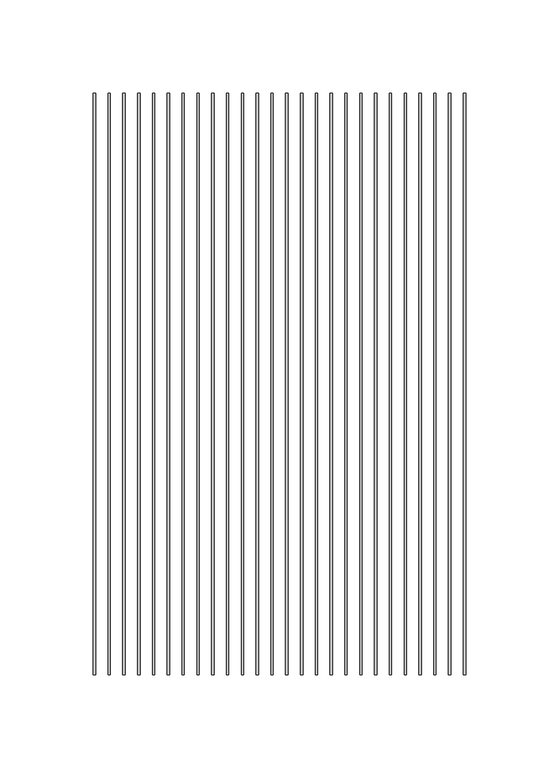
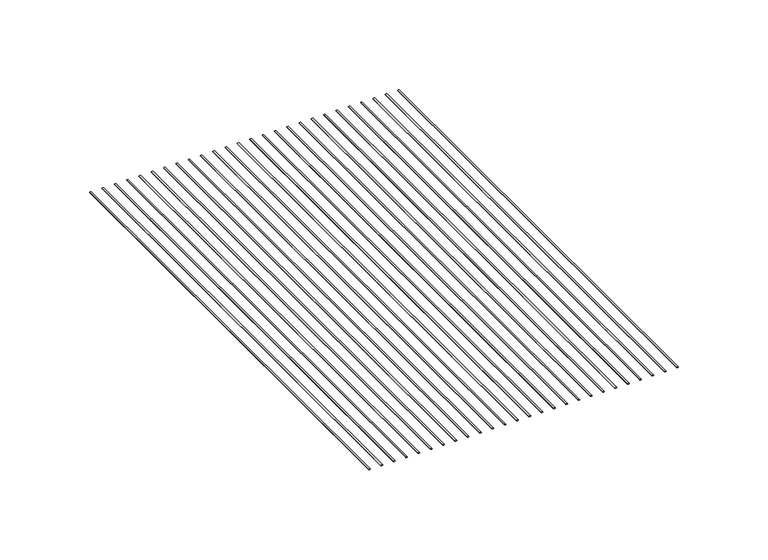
"""IFC4 building model written with IfcOpenShell, lengths in millimetres: proxy geometry, CRAi Generic Model Mesh Piece Face Based : CRAi Generic Model Mesh Piece Face Based."""

from ifc_helpers import new_model, si_unit, point, frame, origin, place, context, project, spatial, ellipse_curve, trimmed, source, transform, mapped, element, save
from ifc_brep_helpers import plane_surface, extruded_surface, advanced_brep


def generic_models_0795693d(model_context):
    return source(origin(), model_context, "Body", "AdvancedBrep", [
        advanced_brep(
        [(-196.6515625, -155.6875423, -2.5796875), (-195.4609375, -155.6875423, -2.5796875), (-196.6515625, 155.6875423, -2.5796875), (-195.4609375, 155.6875423, -2.5796875)],
        [
            (0, 1, ellipse_curve(frame((-196.05625, -155.6875423, -2.5796875), z_axis=(0.0, -1.0, 0.0), x_axis=(1.0, 0.0, 0.0)), 0.5953125, 0.1984375)),
            (1, 0, ellipse_curve(frame((-196.05625, -155.6875423, -2.5796875), z_axis=(0.0, -1.0, 0.0), x_axis=(1.0, 0.0, 0.0)), 0.5953125, 0.1984375)),
            (2, 3, ellipse_curve(frame((-196.05625, 155.6875423, -2.5796875), z_axis=(0.0, 1.0, 0.0), x_axis=(1.0, 0.0, 0.0)), 0.5953125, 0.1984375)),
            (3, 2, ellipse_curve(frame((-196.05625, 155.6875423, -2.5796875), z_axis=(0.0, 1.0, 0.0), x_axis=(1.0, 0.0, 0.0)), 0.5953125, 0.1984375)),
            (0, 2),
            (3, 1),
        ],
        [
            plane_surface(frame((-196.05625, -155.6875423, -2.5796875), z_axis=(0.0, -1.0, 0.0), x_axis=(0.0, 0.0, 1.0))),
            plane_surface(frame((-196.05625, 155.6875423, -2.5796875), z_axis=(0.0, 1.0, 0.0), x_axis=(0.0, 0.0, 1.0))),
            extruded_surface(trimmed(ellipse_curve(frame((-196.05625, 155.6875423, -2.5796875), z_axis=(0.0, -1.0, 0.0), x_axis=(1.0, 0.0, 0.0)), 0.5953125, 0.1984375), [point((-196.6515625, 155.6875423, -2.5796875))], [point((-195.4609375, 155.6875423, -2.5796875))], True, "CARTESIAN"), (0.0, -311.3750846, 0.0), 311.3750846),
            extruded_surface(trimmed(ellipse_curve(frame((-196.05625, 155.6875423, -2.5796875), z_axis=(0.0, -1.0, 0.0), x_axis=(1.0, 0.0, 0.0)), 0.5953125, 0.1984375), [point((-195.4609375, 155.6875423, -2.5796875))], [point((-196.6515625, 155.6875423, -2.5796875))], True, "CARTESIAN"), (0.0, -311.3750846, 0.0), 311.3750846),
        ],
        [
            (0, [[1, 2]]),
            (1, [[3, 4]]),
            (2, [[-1, 5, -4, 6]]),
            (3, [[-2, -6, -3, -5]]),
        ],
    ),
        advanced_brep(
        [(-188.7140625, -155.6875423, -2.5796875), (-187.5234375, -155.6875423, -2.5796875), (-188.7140625, 155.6875423, -2.5796875), (-187.5234375, 155.6875423, -2.5796875)],
        [
            (0, 1, ellipse_curve(frame((-188.11875, -155.6875423, -2.5796875), z_axis=(0.0, -1.0, 0.0), x_axis=(1.0, 0.0, 0.0)), 0.5953125, 0.1984375)),
            (1, 0, ellipse_curve(frame((-188.11875, -155.6875423, -2.5796875), z_axis=(0.0, -1.0, 0.0), x_axis=(1.0, 0.0, 0.0)), 0.5953125, 0.1984375)),
            (2, 3, ellipse_curve(frame((-188.11875, 155.6875423, -2.5796875), z_axis=(0.0, 1.0, 0.0), x_axis=(1.0, 0.0, 0.0)), 0.5953125, 0.1984375)),
            (3, 2, ellipse_curve(frame((-188.11875, 155.6875423, -2.5796875), z_axis=(0.0, 1.0, 0.0), x_axis=(1.0, 0.0, 0.0)), 0.5953125, 0.1984375)),
            (0, 2),
            (3, 1),
        ],
        [
            plane_surface(frame((-188.11875, -155.6875423, -2.5796875), z_axis=(0.0, -1.0, 0.0), x_axis=(0.0, 0.0, 1.0))),
            plane_surface(frame((-188.11875, 155.6875423, -2.5796875), z_axis=(0.0, 1.0, 0.0), x_axis=(0.0, 0.0, 1.0))),
            extruded_surface(trimmed(ellipse_curve(frame((-188.11875, 155.6875423, -2.5796875), z_axis=(0.0, -1.0, 0.0), x_axis=(1.0, 0.0, 0.0)), 0.5953125, 0.1984375), [point((-188.7140625, 155.6875423, -2.5796875))], [point((-187.5234375, 155.6875423, -2.5796875))], True, "CARTESIAN"), (0.0, -311.3750846, 0.0), 311.3750846),
            extruded_surface(trimmed(ellipse_curve(frame((-188.11875, 155.6875423, -2.5796875), z_axis=(0.0, -1.0, 0.0), x_axis=(1.0, 0.0, 0.0)), 0.5953125, 0.1984375), [point((-187.5234375, 155.6875423, -2.5796875))], [point((-188.7140625, 155.6875423, -2.5796875))], True, "CARTESIAN"), (0.0, -311.3750846, 0.0), 311.3750846),
        ],
        [
            (0, [[1, 2]]),
            (1, [[3, 4]]),
            (2, [[-1, 5, -4, 6]]),
            (3, [[-2, -6, -3, -5]]),
        ],
    ),
        advanced_brep(
        [(-180.7765625, -155.6875423, -2.5796875), (-179.5859375, -155.6875423, -2.5796875), (-180.7765625, 155.6875423, -2.5796875), (-179.5859375, 155.6875423, -2.5796875)],
        [
            (0, 1, ellipse_curve(frame((-180.18125, -155.6875423, -2.5796875), z_axis=(0.0, -1.0, 0.0), x_axis=(1.0, 0.0, 0.0)), 0.5953125, 0.1984375)),
            (1, 0, ellipse_curve(frame((-180.18125, -155.6875423, -2.5796875), z_axis=(0.0, -1.0, 0.0), x_axis=(1.0, 0.0, 0.0)), 0.5953125, 0.1984375)),
            (2, 3, ellipse_curve(frame((-180.18125, 155.6875423, -2.5796875), z_axis=(0.0, 1.0, 0.0), x_axis=(1.0, 0.0, 0.0)), 0.5953125, 0.1984375)),
            (3, 2, ellipse_curve(frame((-180.18125, 155.6875423, -2.5796875), z_axis=(0.0, 1.0, 0.0), x_axis=(1.0, 0.0, 0.0)), 0.5953125, 0.1984375)),
            (0, 2),
            (3, 1),
        ],
        [
            plane_surface(frame((-180.18125, -155.6875423, -2.5796875), z_axis=(0.0, -1.0, 0.0), x_axis=(0.0, 0.0, 1.0))),
            plane_surface(frame((-180.18125, 155.6875423, -2.5796875), z_axis=(0.0, 1.0, 0.0), x_axis=(0.0, 0.0, 1.0))),
            extruded_surface(trimmed(ellipse_curve(frame((-180.18125, 155.6875423, -2.5796875), z_axis=(0.0, -1.0, 0.0), x_axis=(1.0, 0.0, 0.0)), 0.5953125, 0.1984375), [point((-180.7765625, 155.6875423, -2.5796875))], [point((-179.5859375, 155.6875423, -2.5796875))], True, "CARTESIAN"), (0.0, -311.3750846, 0.0), 311.3750846),
            extruded_surface(trimmed(ellipse_curve(frame((-180.18125, 155.6875423, -2.5796875), z_axis=(0.0, -1.0, 0.0), x_axis=(1.0, 0.0, 0.0)), 0.5953125, 0.1984375), [point((-179.5859375, 155.6875423, -2.5796875))], [point((-180.7765625, 155.6875423, -2.5796875))], True, "CARTESIAN"), (0.0, -311.3750846, 0.0), 311.3750846),
        ],
        [
            (0, [[1, 2]]),
            (1, [[3, 4]]),
            (2, [[-1, 5, -4, 6]]),
            (3, [[-2, -6, -3, -5]]),
        ],
    ),
        advanced_brep(
        [(-172.8390625, -155.6875423, -2.5796875), (-171.6484375, -155.6875423, -2.5796875), (-172.8390625, 155.6875423, -2.5796875), (-171.6484375, 155.6875423, -2.5796875)],
        [
            (0, 1, ellipse_curve(frame((-172.24375, -155.6875423, -2.5796875), z_axis=(0.0, -1.0, 0.0), x_axis=(1.0, 0.0, 0.0)), 0.5953125, 0.1984375)),
            (1, 0, ellipse_curve(frame((-172.24375, -155.6875423, -2.5796875), z_axis=(0.0, -1.0, 0.0), x_axis=(1.0, 0.0, 0.0)), 0.5953125, 0.1984375)),
            (2, 3, ellipse_curve(frame((-172.24375, 155.6875423, -2.5796875), z_axis=(0.0, 1.0, 0.0), x_axis=(1.0, 0.0, 0.0)), 0.5953125, 0.1984375)),
            (3, 2, ellipse_curve(frame((-172.24375, 155.6875423, -2.5796875), z_axis=(0.0, 1.0, 0.0), x_axis=(1.0, 0.0, 0.0)), 0.5953125, 0.1984375)),
            (0, 2),
            (3, 1),
        ],
        [
            plane_surface(frame((-172.24375, -155.6875423, -2.5796875), z_axis=(0.0, -1.0, 0.0), x_axis=(0.0, 0.0, 1.0))),
            plane_surface(frame((-172.24375, 155.6875423, -2.5796875), z_axis=(0.0, 1.0, 0.0), x_axis=(0.0, 0.0, 1.0))),
            extruded_surface(trimmed(ellipse_curve(frame((-172.24375, 155.6875423, -2.5796875), z_axis=(0.0, -1.0, 0.0), x_axis=(1.0, 0.0, 0.0)), 0.5953125, 0.1984375), [point((-172.8390625, 155.6875423, -2.5796875))], [point((-171.6484375, 155.6875423, -2.5796875))], True, "CARTESIAN"), (0.0, -311.3750846, 0.0), 311.3750846),
            extruded_surface(trimmed(ellipse_curve(frame((-172.24375, 155.6875423, -2.5796875), z_axis=(0.0, -1.0, 0.0), x_axis=(1.0, 0.0, 0.0)), 0.5953125, 0.1984375), [point((-171.6484375, 155.6875423, -2.5796875))], [point((-172.8390625, 155.6875423, -2.5796875))], True, "CARTESIAN"), (0.0, -311.3750846, 0.0), 311.3750846),
        ],
        [
            (0, [[1, 2]]),
            (1, [[3, 4]]),
            (2, [[-1, 5, -4, 6]]),
            (3, [[-2, -6, -3, -5]]),
        ],
    ),
        advanced_brep(
        [(-164.9015625, -155.6875423, -2.5796875), (-163.7109375, -155.6875423, -2.5796875), (-164.9015625, 155.6875423, -2.5796875), (-163.7109375, 155.6875423, -2.5796875)],
        [
            (0, 1, ellipse_curve(frame((-164.30625, -155.6875423, -2.5796875), z_axis=(0.0, -1.0, 0.0), x_axis=(1.0, 0.0, 0.0)), 0.5953125, 0.1984375)),
            (1, 0, ellipse_curve(frame((-164.30625, -155.6875423, -2.5796875), z_axis=(0.0, -1.0, 0.0), x_axis=(1.0, 0.0, 0.0)), 0.5953125, 0.1984375)),
            (2, 3, ellipse_curve(frame((-164.30625, 155.6875423, -2.5796875), z_axis=(0.0, 1.0, 0.0), x_axis=(1.0, 0.0, 0.0)), 0.5953125, 0.1984375)),
            (3, 2, ellipse_curve(frame((-164.30625, 155.6875423, -2.5796875), z_axis=(0.0, 1.0, 0.0), x_axis=(1.0, 0.0, 0.0)), 0.5953125, 0.1984375)),
            (0, 2),
            (3, 1),
        ],
        [
            plane_surface(frame((-164.30625, -155.6875423, -2.5796875), z_axis=(0.0, -1.0, 0.0), x_axis=(0.0, 0.0, 1.0))),
            plane_surface(frame((-164.30625, 155.6875423, -2.5796875), z_axis=(0.0, 1.0, 0.0), x_axis=(0.0, 0.0, 1.0))),
            extruded_surface(trimmed(ellipse_curve(frame((-164.30625, 155.6875423, -2.5796875), z_axis=(0.0, -1.0, 0.0), x_axis=(1.0, 0.0, 0.0)), 0.5953125, 0.1984375), [point((-164.9015625, 155.6875423, -2.5796875))], [point((-163.7109375, 155.6875423, -2.5796875))], True, "CARTESIAN"), (0.0, -311.3750846, 0.0), 311.3750846),
            extruded_surface(trimmed(ellipse_curve(frame((-164.30625, 155.6875423, -2.5796875), z_axis=(0.0, -1.0, 0.0), x_axis=(1.0, 0.0, 0.0)), 0.5953125, 0.1984375), [point((-163.7109375, 155.6875423, -2.5796875))], [point((-164.9015625, 155.6875423, -2.5796875))], True, "CARTESIAN"), (0.0, -311.3750846, 0.0), 311.3750846),
        ],
        [
            (0, [[1, 2]]),
            (1, [[3, 4]]),
            (2, [[-1, 5, -4, 6]]),
            (3, [[-2, -6, -3, -5]]),
        ],
    ),
        advanced_brep(
        [(-156.9640625, -155.6875423, -2.5796875), (-155.7734375, -155.6875423, -2.5796875), (-156.9640625, 155.6875423, -2.5796875), (-155.7734375, 155.6875423, -2.5796875)],
        [
            (0, 1, ellipse_curve(frame((-156.36875, -155.6875423, -2.5796875), z_axis=(0.0, -1.0, 0.0), x_axis=(1.0, 0.0, 0.0)), 0.5953125, 0.1984375)),
            (1, 0, ellipse_curve(frame((-156.36875, -155.6875423, -2.5796875), z_axis=(0.0, -1.0, 0.0), x_axis=(1.0, 0.0, 0.0)), 0.5953125, 0.1984375)),
            (2, 3, ellipse_curve(frame((-156.36875, 155.6875423, -2.5796875), z_axis=(0.0, 1.0, 0.0), x_axis=(1.0, 0.0, 0.0)), 0.5953125, 0.1984375)),
            (3, 2, ellipse_curve(frame((-156.36875, 155.6875423, -2.5796875), z_axis=(0.0, 1.0, 0.0), x_axis=(1.0, 0.0, 0.0)), 0.5953125, 0.1984375)),
            (0, 2),
            (3, 1),
        ],
        [
            plane_surface(frame((-156.36875, -155.6875423, -2.5796875), z_axis=(0.0, -1.0, 0.0), x_axis=(0.0, 0.0, 1.0))),
            plane_surface(frame((-156.36875, 155.6875423, -2.5796875), z_axis=(0.0, 1.0, 0.0), x_axis=(0.0, 0.0, 1.0))),
            extruded_surface(trimmed(ellipse_curve(frame((-156.36875, 155.6875423, -2.5796875), z_axis=(0.0, -1.0, 0.0), x_axis=(1.0, 0.0, 0.0)), 0.5953125, 0.1984375), [point((-156.9640625, 155.6875423, -2.5796875))], [point((-155.7734375, 155.6875423, -2.5796875))], True, "CARTESIAN"), (0.0, -311.3750846, 0.0), 311.3750846),
            extruded_surface(trimmed(ellipse_curve(frame((-156.36875, 155.6875423, -2.5796875), z_axis=(0.0, -1.0, 0.0), x_axis=(1.0, 0.0, 0.0)), 0.5953125, 0.1984375), [point((-155.7734375, 155.6875423, -2.5796875))], [point((-156.9640625, 155.6875423, -2.5796875))], True, "CARTESIAN"), (0.0, -311.3750846, 0.0), 311.3750846),
        ],
        [
            (0, [[1, 2]]),
            (1, [[3, 4]]),
            (2, [[-1, 5, -4, 6]]),
            (3, [[-2, -6, -3, -5]]),
        ],
    ),
        advanced_brep(
        [(-149.0265625, -155.6875423, -2.5796875), (-147.8359375, -155.6875423, -2.5796875), (-149.0265625, 155.6875423, -2.5796875), (-147.8359375, 155.6875423, -2.5796875)],
        [
            (0, 1, ellipse_curve(frame((-148.43125, -155.6875423, -2.5796875), z_axis=(0.0, -1.0, 0.0), x_axis=(1.0, 0.0, 0.0)), 0.5953125, 0.1984375)),
            (1, 0, ellipse_curve(frame((-148.43125, -155.6875423, -2.5796875), z_axis=(0.0, -1.0, 0.0), x_axis=(1.0, 0.0, 0.0)), 0.5953125, 0.1984375)),
            (2, 3, ellipse_curve(frame((-148.43125, 155.6875423, -2.5796875), z_axis=(0.0, 1.0, 0.0), x_axis=(1.0, 0.0, 0.0)), 0.5953125, 0.1984375)),
            (3, 2, ellipse_curve(frame((-148.43125, 155.6875423, -2.5796875), z_axis=(0.0, 1.0, 0.0), x_axis=(1.0, 0.0, 0.0)), 0.5953125, 0.1984375)),
            (0, 2),
            (3, 1),
        ],
        [
            plane_surface(frame((-148.43125, -155.6875423, -2.5796875), z_axis=(0.0, -1.0, 0.0), x_axis=(0.0, 0.0, 1.0))),
            plane_surface(frame((-148.43125, 155.6875423, -2.5796875), z_axis=(0.0, 1.0, 0.0), x_axis=(0.0, 0.0, 1.0))),
            extruded_surface(trimmed(ellipse_curve(frame((-148.43125, 155.6875423, -2.5796875), z_axis=(0.0, -1.0, 0.0), x_axis=(1.0, 0.0, 0.0)), 0.5953125, 0.1984375), [point((-149.0265625, 155.6875423, -2.5796875))], [point((-147.8359375, 155.6875423, -2.5796875))], True, "CARTESIAN"), (0.0, -311.3750846, 0.0), 311.3750846),
            extruded_surface(trimmed(ellipse_curve(frame((-148.43125, 155.6875423, -2.5796875), z_axis=(0.0, -1.0, 0.0), x_axis=(1.0, 0.0, 0.0)), 0.5953125, 0.1984375), [point((-147.8359375, 155.6875423, -2.5796875))], [point((-149.0265625, 155.6875423, -2.5796875))], True, "CARTESIAN"), (0.0, -311.3750846, 0.0), 311.3750846),
        ],
        [
            (0, [[1, 2]]),
            (1, [[3, 4]]),
            (2, [[-1, 5, -4, 6]]),
            (3, [[-2, -6, -3, -5]]),
        ],
    ),
        advanced_brep(
        [(-141.0890625, -155.6875423, -2.5796875), (-139.8984375, -155.6875423, -2.5796875), (-141.0890625, 155.6875423, -2.5796875), (-139.8984375, 155.6875423, -2.5796875)],
        [
            (0, 1, ellipse_curve(frame((-140.49375, -155.6875423, -2.5796875), z_axis=(0.0, -1.0, 0.0), x_axis=(1.0, 0.0, 0.0)), 0.5953125, 0.1984375)),
            (1, 0, ellipse_curve(frame((-140.49375, -155.6875423, -2.5796875), z_axis=(0.0, -1.0, 0.0), x_axis=(1.0, 0.0, 0.0)), 0.5953125, 0.1984375)),
            (2, 3, ellipse_curve(frame((-140.49375, 155.6875423, -2.5796875), z_axis=(0.0, 1.0, 0.0), x_axis=(1.0, 0.0, 0.0)), 0.5953125, 0.1984375)),
            (3, 2, ellipse_curve(frame((-140.49375, 155.6875423, -2.5796875), z_axis=(0.0, 1.0, 0.0), x_axis=(1.0, 0.0, 0.0)), 0.5953125, 0.1984375)),
            (0, 2),
            (3, 1),
        ],
        [
            plane_surface(frame((-140.49375, -155.6875423, -2.5796875), z_axis=(0.0, -1.0, 0.0), x_axis=(0.0, 0.0, 1.0))),
            plane_surface(frame((-140.49375, 155.6875423, -2.5796875), z_axis=(0.0, 1.0, 0.0), x_axis=(0.0, 0.0, 1.0))),
            extruded_surface(trimmed(ellipse_curve(frame((-140.49375, 155.6875423, -2.5796875), z_axis=(0.0, -1.0, 0.0), x_axis=(1.0, 0.0, 0.0)), 0.5953125, 0.1984375), [point((-141.0890625, 155.6875423, -2.5796875))], [point((-139.8984375, 155.6875423, -2.5796875))], True, "CARTESIAN"), (0.0, -311.3750846, 0.0), 311.3750846),
            extruded_surface(trimmed(ellipse_curve(frame((-140.49375, 155.6875423, -2.5796875), z_axis=(0.0, -1.0, 0.0), x_axis=(1.0, 0.0, 0.0)), 0.5953125, 0.1984375), [point((-139.8984375, 155.6875423, -2.5796875))], [point((-141.0890625, 155.6875423, -2.5796875))], True, "CARTESIAN"), (0.0, -311.3750846, 0.0), 311.3750846),
        ],
        [
            (0, [[1, 2]]),
            (1, [[3, 4]]),
            (2, [[-1, 5, -4, 6]]),
            (3, [[-2, -6, -3, -5]]),
        ],
    ),
        advanced_brep(
        [(-133.1515625, -155.6875423, -2.5796875), (-131.9609375, -155.6875423, -2.5796875), (-133.1515625, 155.6875423, -2.5796875), (-131.9609375, 155.6875423, -2.5796875)],
        [
            (0, 1, ellipse_curve(frame((-132.55625, -155.6875423, -2.5796875), z_axis=(0.0, -1.0, 0.0), x_axis=(1.0, 0.0, 0.0)), 0.5953125, 0.1984375)),
            (1, 0, ellipse_curve(frame((-132.55625, -155.6875423, -2.5796875), z_axis=(0.0, -1.0, 0.0), x_axis=(1.0, 0.0, 0.0)), 0.5953125, 0.1984375)),
            (2, 3, ellipse_curve(frame((-132.55625, 155.6875423, -2.5796875), z_axis=(0.0, 1.0, 0.0), x_axis=(1.0, 0.0, 0.0)), 0.5953125, 0.1984375)),
            (3, 2, ellipse_curve(frame((-132.55625, 155.6875423, -2.5796875), z_axis=(0.0, 1.0, 0.0), x_axis=(1.0, 0.0, 0.0)), 0.5953125, 0.1984375)),
            (0, 2),
            (3, 1),
        ],
        [
            plane_surface(frame((-132.55625, -155.6875423, -2.5796875), z_axis=(0.0, -1.0, 0.0), x_axis=(0.0, 0.0, 1.0))),
            plane_surface(frame((-132.55625, 155.6875423, -2.5796875), z_axis=(0.0, 1.0, 0.0), x_axis=(0.0, 0.0, 1.0))),
            extruded_surface(trimmed(ellipse_curve(frame((-132.55625, 155.6875423, -2.5796875), z_axis=(0.0, -1.0, 0.0), x_axis=(1.0, 0.0, 0.0)), 0.5953125, 0.1984375), [point((-133.1515625, 155.6875423, -2.5796875))], [point((-131.9609375, 155.6875423, -2.5796875))], True, "CARTESIAN"), (0.0, -311.3750846, 0.0), 311.3750846),
            extruded_surface(trimmed(ellipse_curve(frame((-132.55625, 155.6875423, -2.5796875), z_axis=(0.0, -1.0, 0.0), x_axis=(1.0, 0.0, 0.0)), 0.5953125, 0.1984375), [point((-131.9609375, 155.6875423, -2.5796875))], [point((-133.1515625, 155.6875423, -2.5796875))], True, "CARTESIAN"), (0.0, -311.3750846, 0.0), 311.3750846),
        ],
        [
            (0, [[1, 2]]),
            (1, [[3, 4]]),
            (2, [[-1, 5, -4, 6]]),
            (3, [[-2, -6, -3, -5]]),
        ],
    ),
        advanced_brep(
        [(-125.2140625, -155.6875423, -2.5796875), (-124.0234375, -155.6875423, -2.5796875), (-125.2140625, 155.6875423, -2.5796875), (-124.0234375, 155.6875423, -2.5796875)],
        [
            (0, 1, ellipse_curve(frame((-124.61875, -155.6875423, -2.5796875), z_axis=(0.0, -1.0, 0.0), x_axis=(1.0, 0.0, 0.0)), 0.5953125, 0.1984375)),
            (1, 0, ellipse_curve(frame((-124.61875, -155.6875423, -2.5796875), z_axis=(0.0, -1.0, 0.0), x_axis=(1.0, 0.0, 0.0)), 0.5953125, 0.1984375)),
            (2, 3, ellipse_curve(frame((-124.61875, 155.6875423, -2.5796875), z_axis=(0.0, 1.0, 0.0), x_axis=(1.0, 0.0, 0.0)), 0.5953125, 0.1984375)),
            (3, 2, ellipse_curve(frame((-124.61875, 155.6875423, -2.5796875), z_axis=(0.0, 1.0, 0.0), x_axis=(1.0, 0.0, 0.0)), 0.5953125, 0.1984375)),
            (0, 2),
            (3, 1),
        ],
        [
            plane_surface(frame((-124.61875, -155.6875423, -2.5796875), z_axis=(0.0, -1.0, 0.0), x_axis=(0.0, 0.0, 1.0))),
            plane_surface(frame((-124.61875, 155.6875423, -2.5796875), z_axis=(0.0, 1.0, 0.0), x_axis=(0.0, 0.0, 1.0))),
            extruded_surface(trimmed(ellipse_curve(frame((-124.61875, 155.6875423, -2.5796875), z_axis=(0.0, -1.0, 0.0), x_axis=(1.0, 0.0, 0.0)), 0.5953125, 0.1984375), [point((-125.2140625, 155.6875423, -2.5796875))], [point((-124.0234375, 155.6875423, -2.5796875))], True, "CARTESIAN"), (0.0, -311.3750846, 0.0), 311.3750846),
            extruded_surface(trimmed(ellipse_curve(frame((-124.61875, 155.6875423, -2.5796875), z_axis=(0.0, -1.0, 0.0), x_axis=(1.0, 0.0, 0.0)), 0.5953125, 0.1984375), [point((-124.0234375, 155.6875423, -2.5796875))], [point((-125.2140625, 155.6875423, -2.5796875))], True, "CARTESIAN"), (0.0, -311.3750846, 0.0), 311.3750846),
        ],
        [
            (0, [[1, 2]]),
            (1, [[3, 4]]),
            (2, [[-1, 5, -4, 6]]),
            (3, [[-2, -6, -3, -5]]),
        ],
    ),
        advanced_brep(
        [(-117.2765625, -155.6875423, -2.5796875), (-116.0859375, -155.6875423, -2.5796875), (-117.2765625, 155.6875423, -2.5796875), (-116.0859375, 155.6875423, -2.5796875)],
        [
            (0, 1, ellipse_curve(frame((-116.68125, -155.6875423, -2.5796875), z_axis=(0.0, -1.0, 0.0), x_axis=(1.0, 0.0, 0.0)), 0.5953125, 0.1984375)),
            (1, 0, ellipse_curve(frame((-116.68125, -155.6875423, -2.5796875), z_axis=(0.0, -1.0, 0.0), x_axis=(1.0, 0.0, 0.0)), 0.5953125, 0.1984375)),
            (2, 3, ellipse_curve(frame((-116.68125, 155.6875423, -2.5796875), z_axis=(0.0, 1.0, 0.0), x_axis=(1.0, 0.0, 0.0)), 0.5953125, 0.1984375)),
            (3, 2, ellipse_curve(frame((-116.68125, 155.6875423, -2.5796875), z_axis=(0.0, 1.0, 0.0), x_axis=(1.0, 0.0, 0.0)), 0.5953125, 0.1984375)),
            (0, 2),
            (3, 1),
        ],
        [
            plane_surface(frame((-116.68125, -155.6875423, -2.5796875), z_axis=(0.0, -1.0, 0.0), x_axis=(0.0, 0.0, 1.0))),
            plane_surface(frame((-116.68125, 155.6875423, -2.5796875), z_axis=(0.0, 1.0, 0.0), x_axis=(0.0, 0.0, 1.0))),
            extruded_surface(trimmed(ellipse_curve(frame((-116.68125, 155.6875423, -2.5796875), z_axis=(0.0, -1.0, 0.0), x_axis=(1.0, 0.0, 0.0)), 0.5953125, 0.1984375), [point((-117.2765625, 155.6875423, -2.5796875))], [point((-116.0859375, 155.6875423, -2.5796875))], True, "CARTESIAN"), (0.0, -311.3750846, 0.0), 311.3750846),
            extruded_surface(trimmed(ellipse_curve(frame((-116.68125, 155.6875423, -2.5796875), z_axis=(0.0, -1.0, 0.0), x_axis=(1.0, 0.0, 0.0)), 0.5953125, 0.1984375), [point((-116.0859375, 155.6875423, -2.5796875))], [point((-117.2765625, 155.6875423, -2.5796875))], True, "CARTESIAN"), (0.0, -311.3750846, 0.0), 311.3750846),
        ],
        [
            (0, [[1, 2]]),
            (1, [[3, 4]]),
            (2, [[-1, 5, -4, 6]]),
            (3, [[-2, -6, -3, -5]]),
        ],
    ),
        advanced_brep(
        [(-109.3390625, -155.6875423, -2.5796875), (-108.1484375, -155.6875423, -2.5796875), (-109.3390625, 155.6875423, -2.5796875), (-108.1484375, 155.6875423, -2.5796875)],
        [
            (0, 1, ellipse_curve(frame((-108.74375, -155.6875423, -2.5796875), z_axis=(0.0, -1.0, 0.0), x_axis=(1.0, 0.0, 0.0)), 0.5953125, 0.1984375)),
            (1, 0, ellipse_curve(frame((-108.74375, -155.6875423, -2.5796875), z_axis=(0.0, -1.0, 0.0), x_axis=(1.0, 0.0, 0.0)), 0.5953125, 0.1984375)),
            (2, 3, ellipse_curve(frame((-108.74375, 155.6875423, -2.5796875), z_axis=(0.0, 1.0, 0.0), x_axis=(1.0, 0.0, 0.0)), 0.5953125, 0.1984375)),
            (3, 2, ellipse_curve(frame((-108.74375, 155.6875423, -2.5796875), z_axis=(0.0, 1.0, 0.0), x_axis=(1.0, 0.0, 0.0)), 0.5953125, 0.1984375)),
            (0, 2),
            (3, 1),
        ],
        [
            plane_surface(frame((-108.74375, -155.6875423, -2.5796875), z_axis=(0.0, -1.0, 0.0), x_axis=(0.0, 0.0, 1.0))),
            plane_surface(frame((-108.74375, 155.6875423, -2.5796875), z_axis=(0.0, 1.0, 0.0), x_axis=(0.0, 0.0, 1.0))),
            extruded_surface(trimmed(ellipse_curve(frame((-108.74375, 155.6875423, -2.5796875), z_axis=(0.0, -1.0, 0.0), x_axis=(1.0, 0.0, 0.0)), 0.5953125, 0.1984375), [point((-109.3390625, 155.6875423, -2.5796875))], [point((-108.1484375, 155.6875423, -2.5796875))], True, "CARTESIAN"), (0.0, -311.3750846, 0.0), 311.3750846),
            extruded_surface(trimmed(ellipse_curve(frame((-108.74375, 155.6875423, -2.5796875), z_axis=(0.0, -1.0, 0.0), x_axis=(1.0, 0.0, 0.0)), 0.5953125, 0.1984375), [point((-108.1484375, 155.6875423, -2.5796875))], [point((-109.3390625, 155.6875423, -2.5796875))], True, "CARTESIAN"), (0.0, -311.3750846, 0.0), 311.3750846),
        ],
        [
            (0, [[1, 2]]),
            (1, [[3, 4]]),
            (2, [[-1, 5, -4, 6]]),
            (3, [[-2, -6, -3, -5]]),
        ],
    ),
        advanced_brep(
        [(-101.4015625, -155.6875423, -2.5796875), (-100.2109375, -155.6875423, -2.5796875), (-101.4015625, 155.6875423, -2.5796875), (-100.2109375, 155.6875423, -2.5796875)],
        [
            (0, 1, ellipse_curve(frame((-100.80625, -155.6875423, -2.5796875), z_axis=(0.0, -1.0, 0.0), x_axis=(1.0, 0.0, 0.0)), 0.5953125, 0.1984375)),
            (1, 0, ellipse_curve(frame((-100.80625, -155.6875423, -2.5796875), z_axis=(0.0, -1.0, 0.0), x_axis=(1.0, 0.0, 0.0)), 0.5953125, 0.1984375)),
            (2, 3, ellipse_curve(frame((-100.80625, 155.6875423, -2.5796875), z_axis=(0.0, 1.0, 0.0), x_axis=(1.0, 0.0, 0.0)), 0.5953125, 0.1984375)),
            (3, 2, ellipse_curve(frame((-100.80625, 155.6875423, -2.5796875), z_axis=(0.0, 1.0, 0.0), x_axis=(1.0, 0.0, 0.0)), 0.5953125, 0.1984375)),
            (0, 2),
            (3, 1),
        ],
        [
            plane_surface(frame((-100.80625, -155.6875423, -2.5796875), z_axis=(0.0, -1.0, 0.0), x_axis=(0.0, 0.0, 1.0))),
            plane_surface(frame((-100.80625, 155.6875423, -2.5796875), z_axis=(0.0, 1.0, 0.0), x_axis=(0.0, 0.0, 1.0))),
            extruded_surface(trimmed(ellipse_curve(frame((-100.80625, 155.6875423, -2.5796875), z_axis=(0.0, -1.0, 0.0), x_axis=(1.0, 0.0, 0.0)), 0.5953125, 0.1984375), [point((-101.4015625, 155.6875423, -2.5796875))], [point((-100.2109375, 155.6875423, -2.5796875))], True, "CARTESIAN"), (0.0, -311.3750846, 0.0), 311.3750846),
            extruded_surface(trimmed(ellipse_curve(frame((-100.80625, 155.6875423, -2.5796875), z_axis=(0.0, -1.0, 0.0), x_axis=(1.0, 0.0, 0.0)), 0.5953125, 0.1984375), [point((-100.2109375, 155.6875423, -2.5796875))], [point((-101.4015625, 155.6875423, -2.5796875))], True, "CARTESIAN"), (0.0, -311.3750846, 0.0), 311.3750846),
        ],
        [
            (0, [[1, 2]]),
            (1, [[3, 4]]),
            (2, [[-1, 5, -4, 6]]),
            (3, [[-2, -6, -3, -5]]),
        ],
    ),
        advanced_brep(
        [(-93.4640625, -155.6875423, -2.5796875), (-92.2734375, -155.6875423, -2.5796875), (-93.4640625, 155.6875423, -2.5796875), (-92.2734375, 155.6875423, -2.5796875)],
        [
            (0, 1, ellipse_curve(frame((-92.86875, -155.6875423, -2.5796875), z_axis=(0.0, -1.0, 0.0), x_axis=(1.0, 0.0, 0.0)), 0.5953125, 0.1984375)),
            (1, 0, ellipse_curve(frame((-92.86875, -155.6875423, -2.5796875), z_axis=(0.0, -1.0, 0.0), x_axis=(1.0, 0.0, 0.0)), 0.5953125, 0.1984375)),
            (2, 3, ellipse_curve(frame((-92.86875, 155.6875423, -2.5796875), z_axis=(0.0, 1.0, 0.0), x_axis=(1.0, 0.0, 0.0)), 0.5953125, 0.1984375)),
            (3, 2, ellipse_curve(frame((-92.86875, 155.6875423, -2.5796875), z_axis=(0.0, 1.0, 0.0), x_axis=(1.0, 0.0, 0.0)), 0.5953125, 0.1984375)),
            (0, 2),
            (3, 1),
        ],
        [
            plane_surface(frame((-92.86875, -155.6875423, -2.5796875), z_axis=(0.0, -1.0, 0.0), x_axis=(0.0, 0.0, 1.0))),
            plane_surface(frame((-92.86875, 155.6875423, -2.5796875), z_axis=(0.0, 1.0, 0.0), x_axis=(0.0, 0.0, 1.0))),
            extruded_surface(trimmed(ellipse_curve(frame((-92.86875, 155.6875423, -2.5796875), z_axis=(0.0, -1.0, 0.0), x_axis=(1.0, 0.0, 0.0)), 0.5953125, 0.1984375), [point((-93.4640625, 155.6875423, -2.5796875))], [point((-92.2734375, 155.6875423, -2.5796875))], True, "CARTESIAN"), (0.0, -311.3750846, 0.0), 311.3750846),
            extruded_surface(trimmed(ellipse_curve(frame((-92.86875, 155.6875423, -2.5796875), z_axis=(0.0, -1.0, 0.0), x_axis=(1.0, 0.0, 0.0)), 0.5953125, 0.1984375), [point((-92.2734375, 155.6875423, -2.5796875))], [point((-93.4640625, 155.6875423, -2.5796875))], True, "CARTESIAN"), (0.0, -311.3750846, 0.0), 311.3750846),
        ],
        [
            (0, [[1, 2]]),
            (1, [[3, 4]]),
            (2, [[-1, 5, -4, 6]]),
            (3, [[-2, -6, -3, -5]]),
        ],
    ),
        advanced_brep(
        [(-85.5265625, -155.6875423, -2.5796875), (-84.3359375, -155.6875423, -2.5796875), (-85.5265625, 155.6875423, -2.5796875), (-84.3359375, 155.6875423, -2.5796875)],
        [
            (0, 1, ellipse_curve(frame((-84.93125, -155.6875423, -2.5796875), z_axis=(0.0, -1.0, 0.0), x_axis=(1.0, 0.0, 0.0)), 0.5953125, 0.1984375)),
            (1, 0, ellipse_curve(frame((-84.93125, -155.6875423, -2.5796875), z_axis=(0.0, -1.0, 0.0), x_axis=(1.0, 0.0, 0.0)), 0.5953125, 0.1984375)),
            (2, 3, ellipse_curve(frame((-84.93125, 155.6875423, -2.5796875), z_axis=(0.0, 1.0, 0.0), x_axis=(1.0, 0.0, 0.0)), 0.5953125, 0.1984375)),
            (3, 2, ellipse_curve(frame((-84.93125, 155.6875423, -2.5796875), z_axis=(0.0, 1.0, 0.0), x_axis=(1.0, 0.0, 0.0)), 0.5953125, 0.1984375)),
            (0, 2),
            (3, 1),
        ],
        [
            plane_surface(frame((-84.93125, -155.6875423, -2.5796875), z_axis=(0.0, -1.0, 0.0), x_axis=(0.0, 0.0, 1.0))),
            plane_surface(frame((-84.93125, 155.6875423, -2.5796875), z_axis=(0.0, 1.0, 0.0), x_axis=(0.0, 0.0, 1.0))),
            extruded_surface(trimmed(ellipse_curve(frame((-84.93125, 155.6875423, -2.5796875), z_axis=(0.0, -1.0, 0.0), x_axis=(1.0, 0.0, 0.0)), 0.5953125, 0.1984375), [point((-85.5265625, 155.6875423, -2.5796875))], [point((-84.3359375, 155.6875423, -2.5796875))], True, "CARTESIAN"), (0.0, -311.3750846, 0.0), 311.3750846),
            extruded_surface(trimmed(ellipse_curve(frame((-84.93125, 155.6875423, -2.5796875), z_axis=(0.0, -1.0, 0.0), x_axis=(1.0, 0.0, 0.0)), 0.5953125, 0.1984375), [point((-84.3359375, 155.6875423, -2.5796875))], [point((-85.5265625, 155.6875423, -2.5796875))], True, "CARTESIAN"), (0.0, -311.3750846, 0.0), 311.3750846),
        ],
        [
            (0, [[1, 2]]),
            (1, [[3, 4]]),
            (2, [[-1, 5, -4, 6]]),
            (3, [[-2, -6, -3, -5]]),
        ],
    ),
        advanced_brep(
        [(-77.5890625, -155.6875423, -2.5796875), (-76.3984375, -155.6875423, -2.5796875), (-77.5890625, 155.6875423, -2.5796875), (-76.3984375, 155.6875423, -2.5796875)],
        [
            (0, 1, ellipse_curve(frame((-76.99375, -155.6875423, -2.5796875), z_axis=(0.0, -1.0, 0.0), x_axis=(1.0, 0.0, 0.0)), 0.5953125, 0.1984375)),
            (1, 0, ellipse_curve(frame((-76.99375, -155.6875423, -2.5796875), z_axis=(0.0, -1.0, 0.0), x_axis=(1.0, 0.0, 0.0)), 0.5953125, 0.1984375)),
            (2, 3, ellipse_curve(frame((-76.99375, 155.6875423, -2.5796875), z_axis=(0.0, 1.0, 0.0), x_axis=(1.0, 0.0, 0.0)), 0.5953125, 0.1984375)),
            (3, 2, ellipse_curve(frame((-76.99375, 155.6875423, -2.5796875), z_axis=(0.0, 1.0, 0.0), x_axis=(1.0, 0.0, 0.0)), 0.5953125, 0.1984375)),
            (0, 2),
            (3, 1),
        ],
        [
            plane_surface(frame((-76.99375, -155.6875423, -2.5796875), z_axis=(0.0, -1.0, 0.0), x_axis=(0.0, 0.0, 1.0))),
            plane_surface(frame((-76.99375, 155.6875423, -2.5796875), z_axis=(0.0, 1.0, 0.0), x_axis=(0.0, 0.0, 1.0))),
            extruded_surface(trimmed(ellipse_curve(frame((-76.99375, 155.6875423, -2.5796875), z_axis=(0.0, -1.0, 0.0), x_axis=(1.0, 0.0, 0.0)), 0.5953125, 0.1984375), [point((-77.5890625, 155.6875423, -2.5796875))], [point((-76.3984375, 155.6875423, -2.5796875))], True, "CARTESIAN"), (0.0, -311.3750846, 0.0), 311.3750846),
            extruded_surface(trimmed(ellipse_curve(frame((-76.99375, 155.6875423, -2.5796875), z_axis=(0.0, -1.0, 0.0), x_axis=(1.0, 0.0, 0.0)), 0.5953125, 0.1984375), [point((-76.3984375, 155.6875423, -2.5796875))], [point((-77.5890625, 155.6875423, -2.5796875))], True, "CARTESIAN"), (0.0, -311.3750846, 0.0), 311.3750846),
        ],
        [
            (0, [[1, 2]]),
            (1, [[3, 4]]),
            (2, [[-1, 5, -4, 6]]),
            (3, [[-2, -6, -3, -5]]),
        ],
    ),
        advanced_brep(
        [(-69.6515625, -155.6875423, -2.5796875), (-68.4609375, -155.6875423, -2.5796875), (-69.6515625, 155.6875423, -2.5796875), (-68.4609375, 155.6875423, -2.5796875)],
        [
            (0, 1, ellipse_curve(frame((-69.05625, -155.6875423, -2.5796875), z_axis=(0.0, -1.0, 0.0), x_axis=(1.0, 0.0, 0.0)), 0.5953125, 0.1984375)),
            (1, 0, ellipse_curve(frame((-69.05625, -155.6875423, -2.5796875), z_axis=(0.0, -1.0, 0.0), x_axis=(1.0, 0.0, 0.0)), 0.5953125, 0.1984375)),
            (2, 3, ellipse_curve(frame((-69.05625, 155.6875423, -2.5796875), z_axis=(0.0, 1.0, 0.0), x_axis=(1.0, 0.0, 0.0)), 0.5953125, 0.1984375)),
            (3, 2, ellipse_curve(frame((-69.05625, 155.6875423, -2.5796875), z_axis=(0.0, 1.0, 0.0), x_axis=(1.0, 0.0, 0.0)), 0.5953125, 0.1984375)),
            (0, 2),
            (3, 1),
        ],
        [
            plane_surface(frame((-69.05625, -155.6875423, -2.5796875), z_axis=(0.0, -1.0, 0.0), x_axis=(0.0, 0.0, 1.0))),
            plane_surface(frame((-69.05625, 155.6875423, -2.5796875), z_axis=(0.0, 1.0, 0.0), x_axis=(0.0, 0.0, 1.0))),
            extruded_surface(trimmed(ellipse_curve(frame((-69.05625, 155.6875423, -2.5796875), z_axis=(0.0, -1.0, 0.0), x_axis=(1.0, 0.0, 0.0)), 0.5953125, 0.1984375), [point((-69.6515625, 155.6875423, -2.5796875))], [point((-68.4609375, 155.6875423, -2.5796875))], True, "CARTESIAN"), (0.0, -311.3750846, 0.0), 311.3750846),
            extruded_surface(trimmed(ellipse_curve(frame((-69.05625, 155.6875423, -2.5796875), z_axis=(0.0, -1.0, 0.0), x_axis=(1.0, 0.0, 0.0)), 0.5953125, 0.1984375), [point((-68.4609375, 155.6875423, -2.5796875))], [point((-69.6515625, 155.6875423, -2.5796875))], True, "CARTESIAN"), (0.0, -311.3750846, 0.0), 311.3750846),
        ],
        [
            (0, [[1, 2]]),
            (1, [[3, 4]]),
            (2, [[-1, 5, -4, 6]]),
            (3, [[-2, -6, -3, -5]]),
        ],
    ),
        advanced_brep(
        [(-61.7140625, -155.6875423, -2.5796875), (-60.5234375, -155.6875423, -2.5796875), (-61.7140625, 155.6875423, -2.5796875), (-60.5234375, 155.6875423, -2.5796875)],
        [
            (0, 1, ellipse_curve(frame((-61.11875, -155.6875423, -2.5796875), z_axis=(0.0, -1.0, 0.0), x_axis=(1.0, 0.0, 0.0)), 0.5953125, 0.1984375)),
            (1, 0, ellipse_curve(frame((-61.11875, -155.6875423, -2.5796875), z_axis=(0.0, -1.0, 0.0), x_axis=(1.0, 0.0, 0.0)), 0.5953125, 0.1984375)),
            (2, 3, ellipse_curve(frame((-61.11875, 155.6875423, -2.5796875), z_axis=(0.0, 1.0, 0.0), x_axis=(1.0, 0.0, 0.0)), 0.5953125, 0.1984375)),
            (3, 2, ellipse_curve(frame((-61.11875, 155.6875423, -2.5796875), z_axis=(0.0, 1.0, 0.0), x_axis=(1.0, 0.0, 0.0)), 0.5953125, 0.1984375)),
            (0, 2),
            (3, 1),
        ],
        [
            plane_surface(frame((-61.11875, -155.6875423, -2.5796875), z_axis=(0.0, -1.0, 0.0), x_axis=(0.0, 0.0, 1.0))),
            plane_surface(frame((-61.11875, 155.6875423, -2.5796875), z_axis=(0.0, 1.0, 0.0), x_axis=(0.0, 0.0, 1.0))),
            extruded_surface(trimmed(ellipse_curve(frame((-61.11875, 155.6875423, -2.5796875), z_axis=(0.0, -1.0, 0.0), x_axis=(1.0, 0.0, 0.0)), 0.5953125, 0.1984375), [point((-61.7140625, 155.6875423, -2.5796875))], [point((-60.5234375, 155.6875423, -2.5796875))], True, "CARTESIAN"), (0.0, -311.3750846, 0.0), 311.3750846),
            extruded_surface(trimmed(ellipse_curve(frame((-61.11875, 155.6875423, -2.5796875), z_axis=(0.0, -1.0, 0.0), x_axis=(1.0, 0.0, 0.0)), 0.5953125, 0.1984375), [point((-60.5234375, 155.6875423, -2.5796875))], [point((-61.7140625, 155.6875423, -2.5796875))], True, "CARTESIAN"), (0.0, -311.3750846, 0.0), 311.3750846),
        ],
        [
            (0, [[1, 2]]),
            (1, [[3, 4]]),
            (2, [[-1, 5, -4, 6]]),
            (3, [[-2, -6, -3, -5]]),
        ],
    ),
        advanced_brep(
        [(-53.7765625, -155.6875423, -2.5796875), (-52.5859375, -155.6875423, -2.5796875), (-53.7765625, 155.6875423, -2.5796875), (-52.5859375, 155.6875423, -2.5796875)],
        [
            (0, 1, ellipse_curve(frame((-53.18125, -155.6875423, -2.5796875), z_axis=(0.0, -1.0, 0.0), x_axis=(1.0, 0.0, 0.0)), 0.5953125, 0.1984375)),
            (1, 0, ellipse_curve(frame((-53.18125, -155.6875423, -2.5796875), z_axis=(0.0, -1.0, 0.0), x_axis=(1.0, 0.0, 0.0)), 0.5953125, 0.1984375)),
            (2, 3, ellipse_curve(frame((-53.18125, 155.6875423, -2.5796875), z_axis=(0.0, 1.0, 0.0), x_axis=(1.0, 0.0, 0.0)), 0.5953125, 0.1984375)),
            (3, 2, ellipse_curve(frame((-53.18125, 155.6875423, -2.5796875), z_axis=(0.0, 1.0, 0.0), x_axis=(1.0, 0.0, 0.0)), 0.5953125, 0.1984375)),
            (0, 2),
            (3, 1),
        ],
        [
            plane_surface(frame((-53.18125, -155.6875423, -2.5796875), z_axis=(0.0, -1.0, 0.0), x_axis=(0.0, 0.0, 1.0))),
            plane_surface(frame((-53.18125, 155.6875423, -2.5796875), z_axis=(0.0, 1.0, 0.0), x_axis=(0.0, 0.0, 1.0))),
            extruded_surface(trimmed(ellipse_curve(frame((-53.18125, 155.6875423, -2.5796875), z_axis=(0.0, -1.0, 0.0), x_axis=(1.0, 0.0, 0.0)), 0.5953125, 0.1984375), [point((-53.7765625, 155.6875423, -2.5796875))], [point((-52.5859375, 155.6875423, -2.5796875))], True, "CARTESIAN"), (0.0, -311.3750846, 0.0), 311.3750846),
            extruded_surface(trimmed(ellipse_curve(frame((-53.18125, 155.6875423, -2.5796875), z_axis=(0.0, -1.0, 0.0), x_axis=(1.0, 0.0, 0.0)), 0.5953125, 0.1984375), [point((-52.5859375, 155.6875423, -2.5796875))], [point((-53.7765625, 155.6875423, -2.5796875))], True, "CARTESIAN"), (0.0, -311.3750846, 0.0), 311.3750846),
        ],
        [
            (0, [[1, 2]]),
            (1, [[3, 4]]),
            (2, [[-1, 5, -4, 6]]),
            (3, [[-2, -6, -3, -5]]),
        ],
    ),
        advanced_brep(
        [(-45.8390625, -155.6875423, -2.5796875), (-44.6484375, -155.6875423, -2.5796875), (-45.8390625, 155.6875423, -2.5796875), (-44.6484375, 155.6875423, -2.5796875)],
        [
            (0, 1, ellipse_curve(frame((-45.24375, -155.6875423, -2.5796875), z_axis=(0.0, -1.0, 0.0), x_axis=(1.0, 0.0, 0.0)), 0.5953125, 0.1984375)),
            (1, 0, ellipse_curve(frame((-45.24375, -155.6875423, -2.5796875), z_axis=(0.0, -1.0, 0.0), x_axis=(1.0, 0.0, 0.0)), 0.5953125, 0.1984375)),
            (2, 3, ellipse_curve(frame((-45.24375, 155.6875423, -2.5796875), z_axis=(0.0, 1.0, 0.0), x_axis=(1.0, 0.0, 0.0)), 0.5953125, 0.1984375)),
            (3, 2, ellipse_curve(frame((-45.24375, 155.6875423, -2.5796875), z_axis=(0.0, 1.0, 0.0), x_axis=(1.0, 0.0, 0.0)), 0.5953125, 0.1984375)),
            (0, 2),
            (3, 1),
        ],
        [
            plane_surface(frame((-45.24375, -155.6875423, -2.5796875), z_axis=(0.0, -1.0, 0.0), x_axis=(0.0, 0.0, 1.0))),
            plane_surface(frame((-45.24375, 155.6875423, -2.5796875), z_axis=(0.0, 1.0, 0.0), x_axis=(0.0, 0.0, 1.0))),
            extruded_surface(trimmed(ellipse_curve(frame((-45.24375, 155.6875423, -2.5796875), z_axis=(0.0, -1.0, 0.0), x_axis=(1.0, 0.0, 0.0)), 0.5953125, 0.1984375), [point((-45.8390625, 155.6875423, -2.5796875))], [point((-44.6484375, 155.6875423, -2.5796875))], True, "CARTESIAN"), (0.0, -311.3750846, 0.0), 311.3750846),
            extruded_surface(trimmed(ellipse_curve(frame((-45.24375, 155.6875423, -2.5796875), z_axis=(0.0, -1.0, 0.0), x_axis=(1.0, 0.0, 0.0)), 0.5953125, 0.1984375), [point((-44.6484375, 155.6875423, -2.5796875))], [point((-45.8390625, 155.6875423, -2.5796875))], True, "CARTESIAN"), (0.0, -311.3750846, 0.0), 311.3750846),
        ],
        [
            (0, [[1, 2]]),
            (1, [[3, 4]]),
            (2, [[-1, 5, -4, 6]]),
            (3, [[-2, -6, -3, -5]]),
        ],
    ),
        advanced_brep(
        [(-37.9015625, -155.6875423, -2.5796875), (-36.7109375, -155.6875423, -2.5796875), (-37.9015625, 155.6875423, -2.5796875), (-36.7109375, 155.6875423, -2.5796875)],
        [
            (0, 1, ellipse_curve(frame((-37.30625, -155.6875423, -2.5796875), z_axis=(0.0, -1.0, 0.0), x_axis=(1.0, 0.0, 0.0)), 0.5953125, 0.1984375)),
            (1, 0, ellipse_curve(frame((-37.30625, -155.6875423, -2.5796875), z_axis=(0.0, -1.0, 0.0), x_axis=(1.0, 0.0, 0.0)), 0.5953125, 0.1984375)),
            (2, 3, ellipse_curve(frame((-37.30625, 155.6875423, -2.5796875), z_axis=(0.0, 1.0, 0.0), x_axis=(1.0, 0.0, 0.0)), 0.5953125, 0.1984375)),
            (3, 2, ellipse_curve(frame((-37.30625, 155.6875423, -2.5796875), z_axis=(0.0, 1.0, 0.0), x_axis=(1.0, 0.0, 0.0)), 0.5953125, 0.1984375)),
            (0, 2),
            (3, 1),
        ],
        [
            plane_surface(frame((-37.30625, -155.6875423, -2.5796875), z_axis=(0.0, -1.0, 0.0), x_axis=(0.0, 0.0, 1.0))),
            plane_surface(frame((-37.30625, 155.6875423, -2.5796875), z_axis=(0.0, 1.0, 0.0), x_axis=(0.0, 0.0, 1.0))),
            extruded_surface(trimmed(ellipse_curve(frame((-37.30625, 155.6875423, -2.5796875), z_axis=(0.0, -1.0, 0.0), x_axis=(1.0, 0.0, 0.0)), 0.5953125, 0.1984375), [point((-37.9015625, 155.6875423, -2.5796875))], [point((-36.7109375, 155.6875423, -2.5796875))], True, "CARTESIAN"), (0.0, -311.3750846, 0.0), 311.3750846),
            extruded_surface(trimmed(ellipse_curve(frame((-37.30625, 155.6875423, -2.5796875), z_axis=(0.0, -1.0, 0.0), x_axis=(1.0, 0.0, 0.0)), 0.5953125, 0.1984375), [point((-36.7109375, 155.6875423, -2.5796875))], [point((-37.9015625, 155.6875423, -2.5796875))], True, "CARTESIAN"), (0.0, -311.3750846, 0.0), 311.3750846),
        ],
        [
            (0, [[1, 2]]),
            (1, [[3, 4]]),
            (2, [[-1, 5, -4, 6]]),
            (3, [[-2, -6, -3, -5]]),
        ],
    ),
        advanced_brep(
        [(-29.9640625, -155.6875423, -2.5796875), (-28.7734375, -155.6875423, -2.5796875), (-29.9640625, 155.6875423, -2.5796875), (-28.7734375, 155.6875423, -2.5796875)],
        [
            (0, 1, ellipse_curve(frame((-29.36875, -155.6875423, -2.5796875), z_axis=(0.0, -1.0, 0.0), x_axis=(1.0, 0.0, 0.0)), 0.5953125, 0.1984375)),
            (1, 0, ellipse_curve(frame((-29.36875, -155.6875423, -2.5796875), z_axis=(0.0, -1.0, 0.0), x_axis=(1.0, 0.0, 0.0)), 0.5953125, 0.1984375)),
            (2, 3, ellipse_curve(frame((-29.36875, 155.6875423, -2.5796875), z_axis=(0.0, 1.0, 0.0), x_axis=(1.0, 0.0, 0.0)), 0.5953125, 0.1984375)),
            (3, 2, ellipse_curve(frame((-29.36875, 155.6875423, -2.5796875), z_axis=(0.0, 1.0, 0.0), x_axis=(1.0, 0.0, 0.0)), 0.5953125, 0.1984375)),
            (0, 2),
            (3, 1),
        ],
        [
            plane_surface(frame((-29.36875, -155.6875423, -2.5796875), z_axis=(0.0, -1.0, 0.0), x_axis=(0.0, 0.0, 1.0))),
            plane_surface(frame((-29.36875, 155.6875423, -2.5796875), z_axis=(0.0, 1.0, 0.0), x_axis=(0.0, 0.0, 1.0))),
            extruded_surface(trimmed(ellipse_curve(frame((-29.36875, 155.6875423, -2.5796875), z_axis=(0.0, -1.0, 0.0), x_axis=(1.0, 0.0, 0.0)), 0.5953125, 0.1984375), [point((-29.9640625, 155.6875423, -2.5796875))], [point((-28.7734375, 155.6875423, -2.5796875))], True, "CARTESIAN"), (0.0, -311.3750846, 0.0), 311.3750846),
            extruded_surface(trimmed(ellipse_curve(frame((-29.36875, 155.6875423, -2.5796875), z_axis=(0.0, -1.0, 0.0), x_axis=(1.0, 0.0, 0.0)), 0.5953125, 0.1984375), [point((-28.7734375, 155.6875423, -2.5796875))], [point((-29.9640625, 155.6875423, -2.5796875))], True, "CARTESIAN"), (0.0, -311.3750846, 0.0), 311.3750846),
        ],
        [
            (0, [[1, 2]]),
            (1, [[3, 4]]),
            (2, [[-1, 5, -4, 6]]),
            (3, [[-2, -6, -3, -5]]),
        ],
    ),
        advanced_brep(
        [(-22.0265625, -155.6875423, -2.5796875), (-20.8359375, -155.6875423, -2.5796875), (-22.0265625, 155.6875423, -2.5796875), (-20.8359375, 155.6875423, -2.5796875)],
        [
            (0, 1, ellipse_curve(frame((-21.43125, -155.6875423, -2.5796875), z_axis=(0.0, -1.0, 0.0), x_axis=(1.0, 0.0, 0.0)), 0.5953125, 0.1984375)),
            (1, 0, ellipse_curve(frame((-21.43125, -155.6875423, -2.5796875), z_axis=(0.0, -1.0, 0.0), x_axis=(1.0, 0.0, 0.0)), 0.5953125, 0.1984375)),
            (2, 3, ellipse_curve(frame((-21.43125, 155.6875423, -2.5796875), z_axis=(0.0, 1.0, 0.0), x_axis=(1.0, 0.0, 0.0)), 0.5953125, 0.1984375)),
            (3, 2, ellipse_curve(frame((-21.43125, 155.6875423, -2.5796875), z_axis=(0.0, 1.0, 0.0), x_axis=(1.0, 0.0, 0.0)), 0.5953125, 0.1984375)),
            (0, 2),
            (3, 1),
        ],
        [
            plane_surface(frame((-21.43125, -155.6875423, -2.5796875), z_axis=(0.0, -1.0, 0.0), x_axis=(0.0, 0.0, 1.0))),
            plane_surface(frame((-21.43125, 155.6875423, -2.5796875), z_axis=(0.0, 1.0, 0.0), x_axis=(0.0, 0.0, 1.0))),
            extruded_surface(trimmed(ellipse_curve(frame((-21.43125, 155.6875423, -2.5796875), z_axis=(0.0, -1.0, 0.0), x_axis=(1.0, 0.0, 0.0)), 0.5953125, 0.1984375), [point((-22.0265625, 155.6875423, -2.5796875))], [point((-20.8359375, 155.6875423, -2.5796875))], True, "CARTESIAN"), (0.0, -311.3750846, 0.0), 311.3750846),
            extruded_surface(trimmed(ellipse_curve(frame((-21.43125, 155.6875423, -2.5796875), z_axis=(0.0, -1.0, 0.0), x_axis=(1.0, 0.0, 0.0)), 0.5953125, 0.1984375), [point((-20.8359375, 155.6875423, -2.5796875))], [point((-22.0265625, 155.6875423, -2.5796875))], True, "CARTESIAN"), (0.0, -311.3750846, 0.0), 311.3750846),
        ],
        [
            (0, [[1, 2]]),
            (1, [[3, 4]]),
            (2, [[-1, 5, -4, 6]]),
            (3, [[-2, -6, -3, -5]]),
        ],
    ),
        advanced_brep(
        [(-14.0890625, -155.6875423, -2.5796875), (-12.8984375, -155.6875423, -2.5796875), (-14.0890625, 155.6875423, -2.5796875), (-12.8984375, 155.6875423, -2.5796875)],
        [
            (0, 1, ellipse_curve(frame((-13.49375, -155.6875423, -2.5796875), z_axis=(0.0, -1.0, 0.0), x_axis=(1.0, 0.0, 0.0)), 0.5953125, 0.1984375)),
            (1, 0, ellipse_curve(frame((-13.49375, -155.6875423, -2.5796875), z_axis=(0.0, -1.0, 0.0), x_axis=(1.0, 0.0, 0.0)), 0.5953125, 0.1984375)),
            (2, 3, ellipse_curve(frame((-13.49375, 155.6875423, -2.5796875), z_axis=(0.0, 1.0, 0.0), x_axis=(1.0, 0.0, 0.0)), 0.5953125, 0.1984375)),
            (3, 2, ellipse_curve(frame((-13.49375, 155.6875423, -2.5796875), z_axis=(0.0, 1.0, 0.0), x_axis=(1.0, 0.0, 0.0)), 0.5953125, 0.1984375)),
            (0, 2),
            (3, 1),
        ],
        [
            plane_surface(frame((-13.49375, -155.6875423, -2.5796875), z_axis=(0.0, -1.0, 0.0), x_axis=(0.0, 0.0, 1.0))),
            plane_surface(frame((-13.49375, 155.6875423, -2.5796875), z_axis=(0.0, 1.0, 0.0), x_axis=(0.0, 0.0, 1.0))),
            extruded_surface(trimmed(ellipse_curve(frame((-13.49375, 155.6875423, -2.5796875), z_axis=(0.0, -1.0, 0.0), x_axis=(1.0, 0.0, 0.0)), 0.5953125, 0.1984375), [point((-14.0890625, 155.6875423, -2.5796875))], [point((-12.8984375, 155.6875423, -2.5796875))], True, "CARTESIAN"), (0.0, -311.3750846, 0.0), 311.3750846),
            extruded_surface(trimmed(ellipse_curve(frame((-13.49375, 155.6875423, -2.5796875), z_axis=(0.0, -1.0, 0.0), x_axis=(1.0, 0.0, 0.0)), 0.5953125, 0.1984375), [point((-12.8984375, 155.6875423, -2.5796875))], [point((-14.0890625, 155.6875423, -2.5796875))], True, "CARTESIAN"), (0.0, -311.3750846, 0.0), 311.3750846),
        ],
        [
            (0, [[1, 2]]),
            (1, [[3, 4]]),
            (2, [[-1, 5, -4, 6]]),
            (3, [[-2, -6, -3, -5]]),
        ],
    ),
        advanced_brep(
        [(-6.1515625, -155.6875423, -2.5796875), (-4.9609375, -155.6875423, -2.5796875), (-6.1515625, 155.6875423, -2.5796875), (-4.9609375, 155.6875423, -2.5796875)],
        [
            (0, 1, ellipse_curve(frame((-5.55625, -155.6875423, -2.5796875), z_axis=(0.0, -1.0, 0.0), x_axis=(1.0, 0.0, 0.0)), 0.5953125, 0.1984375)),
            (1, 0, ellipse_curve(frame((-5.55625, -155.6875423, -2.5796875), z_axis=(0.0, -1.0, 0.0), x_axis=(1.0, 0.0, 0.0)), 0.5953125, 0.1984375)),
            (2, 3, ellipse_curve(frame((-5.55625, 155.6875423, -2.5796875), z_axis=(0.0, 1.0, 0.0), x_axis=(1.0, 0.0, 0.0)), 0.5953125, 0.1984375)),
            (3, 2, ellipse_curve(frame((-5.55625, 155.6875423, -2.5796875), z_axis=(0.0, 1.0, 0.0), x_axis=(1.0, 0.0, 0.0)), 0.5953125, 0.1984375)),
            (0, 2),
            (3, 1),
        ],
        [
            plane_surface(frame((-5.55625, -155.6875423, -2.5796875), z_axis=(0.0, -1.0, 0.0), x_axis=(0.0, 0.0, 1.0))),
            plane_surface(frame((-5.55625, 155.6875423, -2.5796875), z_axis=(0.0, 1.0, 0.0), x_axis=(0.0, 0.0, 1.0))),
            extruded_surface(trimmed(ellipse_curve(frame((-5.55625, 155.6875423, -2.5796875), z_axis=(0.0, -1.0, 0.0), x_axis=(1.0, 0.0, 0.0)), 0.5953125, 0.1984375), [point((-6.1515625, 155.6875423, -2.5796875))], [point((-4.9609375, 155.6875423, -2.5796875))], True, "CARTESIAN"), (0.0, -311.3750846, 0.0), 311.3750846),
            extruded_surface(trimmed(ellipse_curve(frame((-5.55625, 155.6875423, -2.5796875), z_axis=(0.0, -1.0, 0.0), x_axis=(1.0, 0.0, 0.0)), 0.5953125, 0.1984375), [point((-4.9609375, 155.6875423, -2.5796875))], [point((-6.1515625, 155.6875423, -2.5796875))], True, "CARTESIAN"), (0.0, -311.3750846, 0.0), 311.3750846),
        ],
        [
            (0, [[1, 2]]),
            (1, [[3, 4]]),
            (2, [[-1, 5, -4, 6]]),
            (3, [[-2, -6, -3, -5]]),
        ],
    ),
        advanced_brep(
        [(1.7859375, -155.6875423, -2.5796875), (2.9765625, -155.6875423, -2.5796875), (1.7859375, 155.6875423, -2.5796875), (2.9765625, 155.6875423, -2.5796875)],
        [
            (0, 1, ellipse_curve(frame((2.38125, -155.6875423, -2.5796875), z_axis=(0.0, -1.0, 0.0), x_axis=(1.0, 0.0, 0.0)), 0.5953125, 0.1984375)),
            (1, 0, ellipse_curve(frame((2.38125, -155.6875423, -2.5796875), z_axis=(0.0, -1.0, 0.0), x_axis=(1.0, 0.0, 0.0)), 0.5953125, 0.1984375)),
            (2, 3, ellipse_curve(frame((2.38125, 155.6875423, -2.5796875), z_axis=(0.0, 1.0, 0.0), x_axis=(1.0, 0.0, 0.0)), 0.5953125, 0.1984375)),
            (3, 2, ellipse_curve(frame((2.38125, 155.6875423, -2.5796875), z_axis=(0.0, 1.0, 0.0), x_axis=(1.0, 0.0, 0.0)), 0.5953125, 0.1984375)),
            (0, 2),
            (3, 1),
        ],
        [
            plane_surface(frame((2.38125, -155.6875423, -2.5796875), z_axis=(0.0, -1.0, 0.0), x_axis=(0.0, 0.0, 1.0))),
            plane_surface(frame((2.38125, 155.6875423, -2.5796875), z_axis=(0.0, 1.0, 0.0), x_axis=(0.0, 0.0, 1.0))),
            extruded_surface(trimmed(ellipse_curve(frame((2.38125, 155.6875423, -2.5796875), z_axis=(0.0, -1.0, 0.0), x_axis=(1.0, 0.0, 0.0)), 0.5953125, 0.1984375), [point((1.7859375, 155.6875423, -2.5796875))], [point((2.9765625, 155.6875423, -2.5796875))], True, "CARTESIAN"), (0.0, -311.3750846, 0.0), 311.3750846),
            extruded_surface(trimmed(ellipse_curve(frame((2.38125, 155.6875423, -2.5796875), z_axis=(0.0, -1.0, 0.0), x_axis=(1.0, 0.0, 0.0)), 0.5953125, 0.1984375), [point((2.9765625, 155.6875423, -2.5796875))], [point((1.7859375, 155.6875423, -2.5796875))], True, "CARTESIAN"), (0.0, -311.3750846, 0.0), 311.3750846),
        ],
        [
            (0, [[1, 2]]),
            (1, [[3, 4]]),
            (2, [[-1, 5, -4, 6]]),
            (3, [[-2, -6, -3, -5]]),
        ],
    ),
    ])


if __name__ == "__main__":
    model = new_model("IFC4")
    model_context = context("Model", 3, world=origin())
    ifc_project = project(units=[si_unit("LENGTHUNIT", "METRE", prefix="MILLI")], contexts=[model_context])
    site = spatial("IfcSite", under=ifc_project)
    building = spatial("IfcBuilding", under=site)
    placement = place(None, origin())
    generic_models_shape = generic_models_0795693d(model_context)
    element("IfcBuildingElementProxy", 1, Name="CRAi Generic Model Mesh Piece Face Based : CRAi Generic Model Mesh Piece Face Based", ObjectType="CRAi Generic Model Mesh Piece Face Based : CRAi Generic Model Mesh Piece Face Based", at=placement, inside=building, context=model_context, shape_type="MappedRepresentation", body=[
        mapped(generic_models_shape, transform((0.0, 0.0, 0.0), x_axis=(1.0, 0.0, 0.0), y_axis=(0.0, 1.0, 0.0), z_axis=(0.0, 0.0, 1.0))),
    ])
    save(model, "model.ifc")
